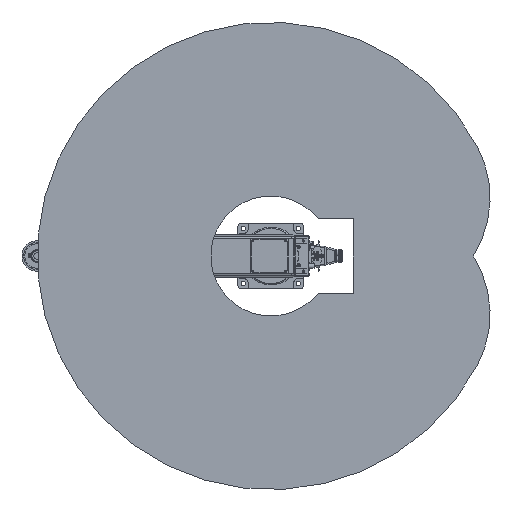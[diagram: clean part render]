
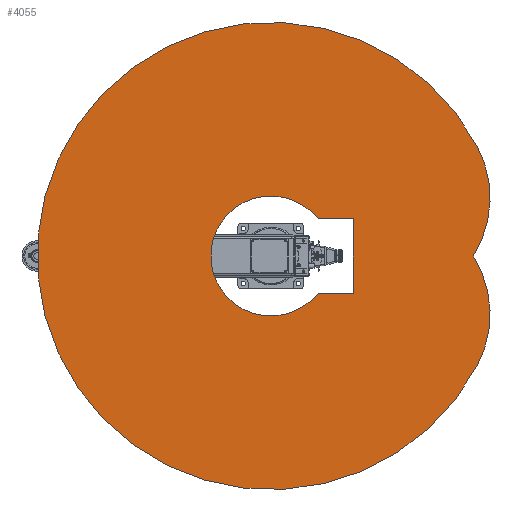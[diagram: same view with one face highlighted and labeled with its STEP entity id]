
A CAD part, front view. The second image highlights one B-rep face of the part: STEP entity #4055.
In plain terms, the highlighted planar face has unit normal (0, -1, 0).
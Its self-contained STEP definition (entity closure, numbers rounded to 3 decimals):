
#4055 = ADVANCED_FACE( '', ( #10294, #10295 ), #10296, .F. );
#10294 = FACE_BOUND( '', #19473, .T. );
#10295 = FACE_OUTER_BOUND( '', #19474, .T. );
#10296 = PLANE( '', #19475 );
#19473 = EDGE_LOOP( '', ( #32309, #32310, #32311, #32312 ) );
#19474 = EDGE_LOOP( '', ( #32313, #32314, #32315 ) );
#19475 = AXIS2_PLACEMENT_3D( '', #32316, #32317, #32318 );
#32309 = ORIENTED_EDGE( '', *, *, #51181, .T. );
#32310 = ORIENTED_EDGE( '', *, *, #51182, .T. );
#32311 = ORIENTED_EDGE( '', *, *, #51183, .T. );
#32312 = ORIENTED_EDGE( '', *, *, #50282, .T. );
#32313 = ORIENTED_EDGE( '', *, *, #50766, .F. );
#32314 = ORIENTED_EDGE( '', *, *, #51184, .F. );
#32315 = ORIENTED_EDGE( '', *, *, #50089, .F. );
#32316 = CARTESIAN_POINT( '', ( 105.631, 0., 198.663 ) );
#32317 = DIRECTION( '', ( 0., 1., 0. ) );
#32318 = DIRECTION( '', ( 0., 0., 1. ) );
#50089 = EDGE_CURVE( '', #59726, #59727, #59728, .T. );
#50282 = EDGE_CURVE( '', #60052, #60053, #60054, .T. );
#50766 = EDGE_CURVE( '', #60831, #59726, #60832, .T. );
#51181 = EDGE_CURVE( '', #60053, #61490, #61491, .T. );
#51182 = EDGE_CURVE( '', #61490, #61492, #61493, .T. );
#51183 = EDGE_CURVE( '', #61492, #60052, #61494, .T. );
#51184 = EDGE_CURVE( '', #59727, #60831, #61495, .T. );
#59726 = VERTEX_POINT( '', #73401 );
#59727 = VERTEX_POINT( '', #73402 );
#59728 = CIRCLE( '', #73403, 850. );
#60052 = VERTEX_POINT( '', #74447 );
#60053 = VERTEX_POINT( '', #74448 );
#60054 = LINE( '', #74449, #74450 );
#60831 = VERTEX_POINT( '', #75867 );
#60832 = CIRCLE( '', #75868, 400. );
#61490 = VERTEX_POINT( '', #77156 );
#61491 = LINE( '', #77157, #77158 );
#61492 = VERTEX_POINT( '', #77159 );
#61493 = CIRCLE( '', #77160, 218.3 );
#61494 = LINE( '', #77161, #77162 );
#61495 = CIRCLE( '', #77163, 400. );
#73401 = CARTESIAN_POINT( '', ( 399.051, 0., 750.505 ) );
#73402 = CARTESIAN_POINT( '', ( -399.051, 0., 750.505 ) );
#73403 = AXIS2_PLACEMENT_3D( '', #90876, #90877, #90878 );
#74447 = CARTESIAN_POINT( '', ( -135., 0., 300. ) );
#74448 = CARTESIAN_POINT( '', ( 135., 0., 300. ) );
#74449 = CARTESIAN_POINT( '', ( -135., 0., 300. ) );
#74450 = VECTOR( '', #91094, 1000. );
#75867 = CARTESIAN_POINT( '', ( 0., 0., 736.985 ) );
#75868 = AXIS2_PLACEMENT_3D( '', #91678, #91679, #91680 );
#77156 = CARTESIAN_POINT( '', ( 135., 0., 171.551 ) );
#77157 = CARTESIAN_POINT( '', ( 135., 0., 300. ) );
#77158 = VECTOR( '', #92128, 1000. );
#77159 = CARTESIAN_POINT( '', ( -135., 0., 171.551 ) );
#77160 = AXIS2_PLACEMENT_3D( '', #92129, #92130, #92131 );
#77161 = CARTESIAN_POINT( '', ( -135., 0., 171.551 ) );
#77162 = VECTOR( '', #92132, 1000. );
#77163 = AXIS2_PLACEMENT_3D( '', #92133, #92134, #92135 );
#90876 = CARTESIAN_POINT( '', ( 0., 0., 0. ) );
#90877 = DIRECTION( '', ( 0., 1., 0. ) );
#90878 = DIRECTION( '', ( 1., 0., 0. ) );
#91094 = DIRECTION( '', ( 1., 0., 0. ) );
#91678 = CARTESIAN_POINT( '', ( 211.262, 0., 397.326 ) );
#91679 = DIRECTION( '', ( 0., 1., 0. ) );
#91680 = DIRECTION( '', ( 1., 0., 0. ) );
#92128 = DIRECTION( '', ( 0., 0., -1. ) );
#92129 = CARTESIAN_POINT( '', ( 0., 0., 0. ) );
#92130 = DIRECTION( '', ( 0., 1., 0. ) );
#92131 = DIRECTION( '', ( 1., 0., 0. ) );
#92132 = DIRECTION( '', ( 0., 0., 1. ) );
#92133 = CARTESIAN_POINT( '', ( -211.262, 0., 397.326 ) );
#92134 = DIRECTION( '', ( 0., 1., 0. ) );
#92135 = DIRECTION( '', ( 1., 0., 0. ) );
